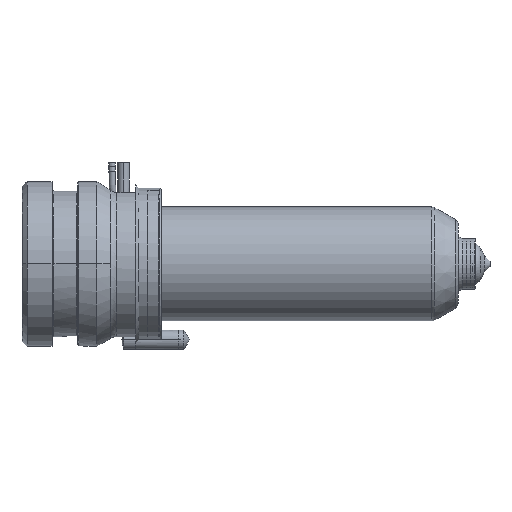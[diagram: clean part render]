
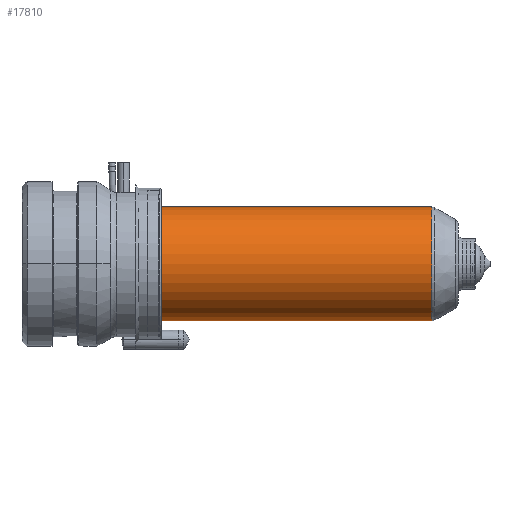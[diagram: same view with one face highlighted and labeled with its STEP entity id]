
A CAD part, left-side view. The second image highlights one B-rep face of the part: STEP entity #17810.
In plain terms, the highlighted cylindrical face has radius 9 mm (diameter 18 mm), a partial arc.
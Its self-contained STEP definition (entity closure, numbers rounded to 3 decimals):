
#17199=CARTESIAN_POINT('',(0.,-64.8,0.));
#17200=DIRECTION('',(0.,-1.,0.));
#17201=DIRECTION('',(0.,0.,1.));
#17202=AXIS2_PLACEMENT_3D('',#17199,#17200,#17201);
#17207=CARTESIAN_POINT('',(0.,-22.,0.));
#17208=DIRECTION('',(0.,1.,0.));
#17209=DIRECTION('',(0.,0.,-1.));
#17210=AXIS2_PLACEMENT_3D('',#17207,#17208,#17209);
#17215=DIRECTION('',(0.,1.,0.));
#17216=VECTOR('',#17215,42.8);
#17217=CARTESIAN_POINT('',(0.,-64.8,9.));
#17218=LINE('',#17217,#17216);
#17230=DIRECTION('',(0.,1.,0.));
#17231=VECTOR('',#17230,42.8);
#17232=CARTESIAN_POINT('',(0.,-64.8,-9.));
#17233=LINE('',#17232,#17231);
#17425=CARTESIAN_POINT('',(0.,-64.8,9.));
#17426=CARTESIAN_POINT('',(0.,-22.,9.));
#17427=VERTEX_POINT('',#17425);
#17428=VERTEX_POINT('',#17426);
#17429=CARTESIAN_POINT('',(0.,-64.8,-9.));
#17430=CARTESIAN_POINT('',(0.,-22.,-9.));
#17431=VERTEX_POINT('',#17429);
#17432=VERTEX_POINT('',#17430);
#17796=CARTESIAN_POINT('',(0.,-15.2,0.));
#17797=DIRECTION('',(0.,-1.,0.));
#17798=DIRECTION('',(0.,0.,1.));
#17799=AXIS2_PLACEMENT_3D('',#17796,#17797,#17798);
#17800=CYLINDRICAL_SURFACE('',#17799,9.);
#17802=ORIENTED_EDGE('',*,*,#17801,.F.);
#17803=ORIENTED_EDGE('',*,*,#17791,.T.);
#17805=ORIENTED_EDGE('',*,*,#17804,.T.);
#17807=ORIENTED_EDGE('',*,*,#17806,.T.);
#17808=EDGE_LOOP('',(#17802,#17803,#17805,#17807));
#17809=FACE_OUTER_BOUND('',#17808,.F.);
#17810=ADVANCED_FACE('',(#17809),#17800,.T.);
#17203=CIRCLE('',#17202,9.);
#17211=CIRCLE('',#17210,9.);
#17791=EDGE_CURVE('',#17427,#17431,#17203,.T.);
#17801=EDGE_CURVE('',#17427,#17428,#17218,.T.);
#17804=EDGE_CURVE('',#17431,#17432,#17233,.T.);
#17806=EDGE_CURVE('',#17432,#17428,#17211,.T.);
